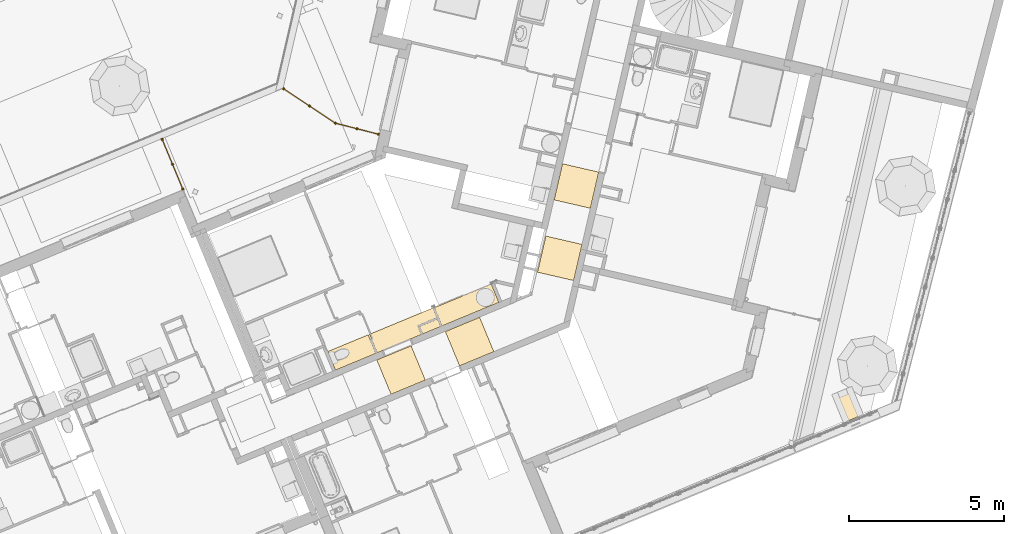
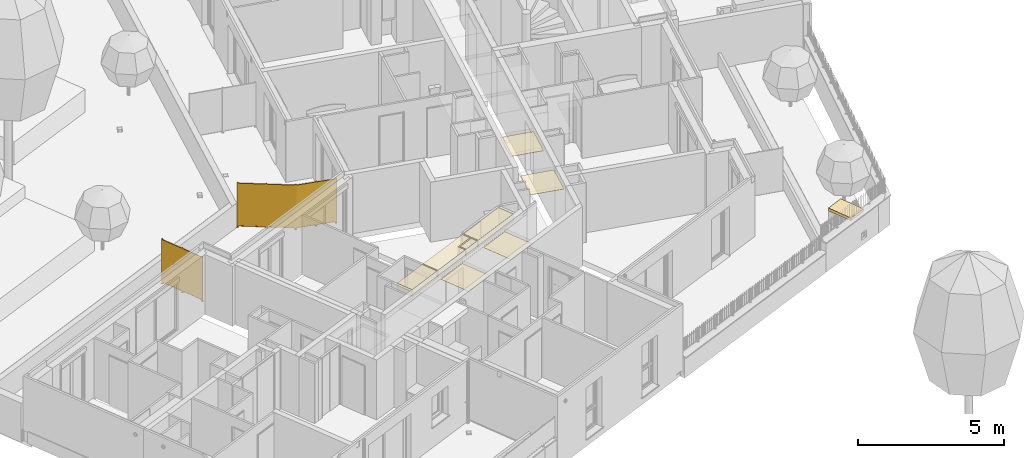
# One storey, part 70 of 119: 6 coverings, 2 railings.
"""IFC2X3 building model written with IfcOpenShell, lengths in metres."""

from ifc_helpers import new_model, entity, si_unit, converted_unit, derived_unit, money_unit, direction, frame, origin_with_axes, place, context, subcontext, project, spatial, faceted_brep, material, material_list, type_object, element, save


model = new_model("IFC2X3")

# Units and contexts
model_context = context("Model", 3, precision=1e-05, world=origin_with_axes(), true_north=direction((0.0, 1.0)))
body_context = subcontext(model_context, "Body", "Model", "MODEL_VIEW")
ifc_project = project(units=[si_unit("LENGTHUNIT", "METRE"), si_unit("AREAUNIT", "SQUARE_METRE"), si_unit("VOLUMEUNIT", "CUBIC_METRE"), converted_unit("PLANEANGLEUNIT", "DEGREE", entity("IfcPlaneAngleMeasure", 0.0174532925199), si_unit("PLANEANGLEUNIT", "RADIAN"), dimensions=[0, 0, 0, 0, 0, 0, 0]), si_unit("SOLIDANGLEUNIT", "STERADIAN"), money_unit("EUR"), converted_unit("TIMEUNIT", "Year", entity("IfcTimeMeasure", 31556926.0), si_unit("TIMEUNIT", "SECOND"), dimensions=[0, 0, 1, 0, 0, 0, 0]), si_unit("MASSUNIT", "GRAM", prefix="KILO"), si_unit("THERMODYNAMICTEMPERATUREUNIT", "DEGREE_CELSIUS"), si_unit("LUMINOUSINTENSITYUNIT", "LUMEN"), si_unit("ENERGYUNIT", "JOULE", prefix="MEGA"), derived_unit("THERMALCONDUCTANCEUNIT", [(si_unit("POWERUNIT", "WATT"), 1), (si_unit("LENGTHUNIT", "METRE"), -1), (si_unit("THERMODYNAMICTEMPERATUREUNIT", "KELVIN"), -1)]), derived_unit("SPECIFICHEATCAPACITYUNIT", [(si_unit("ENERGYUNIT", "JOULE"), 1), (si_unit("MASSUNIT", "GRAM", prefix="KILO"), -1), (si_unit("THERMODYNAMICTEMPERATUREUNIT", "KELVIN"), -1)]), derived_unit("MASSDENSITYUNIT", [(si_unit("MASSUNIT", "GRAM", prefix="KILO"), 1), (si_unit("VOLUMEUNIT", "CUBIC_METRE"), -1)])], contexts=[model_context])

# Site, building, storey
site_placement = place(None, origin_with_axes())
site = spatial("IfcSite", under=ifc_project, at=site_placement, Name="Site", CompositionType="ELEMENT")
building_placement = place(site_placement, origin_with_axes())
building = spatial("IfcBuilding", under=site, at=building_placement, Name="Bâtiment", CompositionType="ELEMENT")
storey_placement = place(building_placement, origin_with_axes())
storey = spatial("IfcBuildingStorey", under=building, at=storey_placement, Name="Rez-de-chaussée", CompositionType="ELEMENT", Elevation=0.0)

# Coverings
ifc_material_1 = material(Name="Finition int - Plaque de plâtre ACOUSTIQUE type GYPTONE")
covering_type_1 = type_object("IfcCoveringType", Name="Finition int - Plaque de plâtre ACOUSTIQUE type GYPTONE 15", PredefinedType="CEILING")
for number, where, z_axis, x_axis, name in (
    (1, (-14.5570643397, -16.7071208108, 2.272), (0.0, 0.0, 1.0), (1.0, 0.0, 0.0), "Dalle_004"),
    (2, (-14.0173614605, -14.3685911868, 2.272), (0.0, 0.0, 1.0), (1.0, 0.0, 0.0), "Dalle_004"),
):
    element("IfcCovering", number, at=place(storey_placement, frame(where, z_axis=z_axis, x_axis=x_axis)), inside=storey, type_object=covering_type_1, material=ifc_material_1, Name=name, PredefinedType="CEILING", context=body_context, shape_type="Brep", body=[
        faceted_brep([(0.0, 0.0, 0.0), (0.0, 0.0, -0.015), (1.16926481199, -0.269851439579, -0.015), (1.16926481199, -0.269851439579, 0.0), (0.269851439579, 1.16926481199, 0.0), (0.269851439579, 1.16926481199, -0.015), (1.43911625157, 0.899413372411, -0.015), (1.43911625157, 0.899413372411, 0.0)], [[[0, 1, 2, 3]], [[4, 5, 1, 0]], [[2, 1, 5, 6]], [[3, 2, 6, 7]], [[4, 0, 3, 7]], [[7, 6, 5, 4]]]),
    ])
for number, where, z_axis, x_axis, name in (
    (3, (-19.7547705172, -19.5469256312, 2.272), (0.0, 0.0, 1.0), (1.0, 0.0, 0.0), "Dalle_004"),
    (4, (-17.5378865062, -18.6274555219, 2.272), (0.0, 0.0, 1.0), (1.0, 0.0, 0.0), "Dalle_004"),
):
    element("IfcCovering", number, at=place(storey_placement, frame(where, z_axis=z_axis, x_axis=x_axis)), inside=storey, type_object=covering_type_1, material=ifc_material_1, Name=name, PredefinedType="CEILING", context=body_context, shape_type="Brep", body=[
        faceted_brep([(0.0, 0.0, 0.0), (0.0, 0.0, -0.015), (0.459735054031, -1.10844200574, -0.015), (0.459735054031, -1.10844200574, 0.0), (1.10844200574, 0.459735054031, 0.0), (1.10844200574, 0.459735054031, -0.015), (1.56817705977, -0.648706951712, -0.015), (1.56817705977, -0.648706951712, 0.0)], [[[0, 1, 2, 3]], [[4, 5, 1, 0]], [[2, 1, 5, 6]], [[3, 2, 6, 7]], [[4, 0, 3, 7]], [[7, 6, 5, 4]]]),
    ])
ifc_material_2 = material(Name="Béton")
covering_type_2 = type_object("IfcCoveringType", Name="Béton 120", PredefinedType="CEILING")
covering_1_placement = place(storey_placement, frame((-5.03951512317, -20.6666614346, 0.79), z_axis=(0.0, 0.0, 1.0), x_axis=(1.0, 0.0, 0.0)))
element("IfcCovering", 5, at=covering_1_placement, inside=storey, type_object=covering_type_2, material=ifc_material_2, Name="Dalle_025", PredefinedType="CEILING", context=body_context, shape_type="Brep", body=[
    faceted_brep([(0.0, 0.0, 0.0), (0.0, 0.0, -0.12), (0.377365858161, -0.909846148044, -0.12), (0.377365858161, -0.909846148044, 0.0), (0.646591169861, 0.268178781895, 0.0), (0.646591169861, 0.268178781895, -0.12), (1.02395702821, -0.641667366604, -0.12), (1.02395702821, -0.641667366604, 0.0)], [[[0, 1, 2, 3]], [[4, 5, 1, 0]], [[2, 1, 5, 6]], [[3, 2, 6, 7]], [[4, 0, 3, 7]], [[7, 6, 5, 4]]]),
])
ifc_material_3 = material(Name="Finition int - Plaque de plâtre")
covering_type_3 = type_object("IfcCoveringType", Name="Finition int - Plaque de plâtre 300", PredefinedType="CEILING")
covering_2_placement = place(storey_placement, frame((-21.3394909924, -19.2731644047, 2.5), z_axis=(0.0, 0.0, 1.0), x_axis=(1.0, 0.0, 0.0)))
element("IfcCovering", 6, at=covering_2_placement, inside=storey, type_object=covering_type_3, material=ifc_material_3, Name="Dalle_003", PredefinedType="CEILING", context=body_context, shape_type="Brep", body=[
    faceted_brep([(0.249023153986, -0.600406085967, -0.3), (1.55421361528, -0.0590680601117, -0.3), (1.55421361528, -0.0590680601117, 0.0), (0.249023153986, -0.600406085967, 0.0), (0.0, 0.0, -0.3), (1.30519046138, 0.541338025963, -0.3), (1.30519046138, 0.541338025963, 0.0), (0.0, 0.0, 0.0)], [[[0, 1, 2, 3]], [[4, 5, 1, 0]], [[5, 6, 2, 1]], [[3, 2, 6, 7]], [[3, 7, 4, 0]], [[7, 6, 5, 4]]]),
    faceted_brep([(1.59855129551, -0.0406786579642, -0.3), (3.02659407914, 0.551613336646, -0.3), (3.02659407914, 0.551613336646, 0.0), (1.59855129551, -0.0406786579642, 0.0), (2.90744607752, 0.838884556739, -0.3), (2.92583547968, 0.79454687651, -0.3), (1.34952814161, 0.559727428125, -0.3), (3.40014585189, 1.41023727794, -0.3), (3.53002100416, 1.09710241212, -0.3), (2.92583547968, 0.79454687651, 0.0), (2.90744607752, 0.838884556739, 0.0), (3.53002100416, 1.09710241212, 0.0), (3.40014585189, 1.41023727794, 0.0), (1.34952814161, 0.559727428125, 0.0)], [[[0, 1, 2, 3]], [[4, 5, 1, 0, 6, 7, 8]], [[5, 9, 2, 1]], [[3, 2, 9, 10, 11, 12, 13]], [[6, 0, 3, 13]], [[10, 9, 5, 4]], [[13, 12, 7, 6]], [[12, 11, 8, 7]], [[4, 8, 11, 10]]]),
    faceted_brep([(5.53265798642, 1.59102308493, -0.3), (5.28784907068, 2.1812684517, -0.3), (5.28784907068, 2.1812684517, 0.0), (5.53265798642, 1.59102308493, 0.0), (3.69350668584, 0.828220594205, -0.3), (3.44869776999, 1.41846596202, -0.3), (3.44869776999, 1.41846596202, 0.0), (3.69350668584, 0.828220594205, 0.0)], [[[0, 1, 2, 3]], [[4, 5, 1, 0]], [[5, 6, 2, 1]], [[3, 2, 6, 7]], [[3, 7, 4, 0]], [[7, 6, 5, 4]]]),
    faceted_brep([(3.5484104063, 1.05276473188, 0.0), (2.97017315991, 0.812936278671, 0.0), (3.07093175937, 0.570002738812, 0.0), (3.64916900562, 0.809831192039, 0.0), (3.5484104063, 1.05276473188, -0.3), (2.97017315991, 0.812936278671, -0.3), (3.07093175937, 0.570002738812, -0.3), (3.64916900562, 0.809831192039, -0.3)], [[[0, 1, 2, 3]], [[4, 5, 1, 0]], [[5, 6, 2, 1]], [[3, 2, 6, 7]], [[7, 4, 0, 3]], [[7, 6, 5, 4]]]),
])

# Railings
ifc_material_4 = material(Name="Métal - Acier")
ifc_material_5 = material(Name="Métal - Acier inoxidable")
ifc_material_6 = material(Name="Vitrage")
ifc_material_list_1 = material_list([ifc_material_4, ifc_material_4, ifc_material_4, ifc_material_5, ifc_material_6, ifc_material_4, ifc_material_5, ifc_material_6, ifc_material_5, ifc_material_6, ifc_material_4, ifc_material_5, ifc_material_6])
railing_type = type_object("IfcRailingType", Name="Type de garde-corps", PredefinedType="NOTDEFINED")
railing_1_placement = place(storey_placement, frame((-22.767149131, -10.7764624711, 0.2), z_axis=(0.0, 0.0, 1.0), x_axis=(1.0, 0.0, 0.0)))
element("IfcRailing", 7, at=railing_1_placement, inside=storey, type_object=railing_type, material=ifc_material_list_1, Name="Pare-vue acier laqué+verre dépoli H=190", PredefinedType="NOTDEFINED", context=body_context, shape_type="Brep", body=[
    faceted_brep([(0.020792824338, 0.00420219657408, 0.01), (0.00420219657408, -0.020792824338, 0.01), (0.00420219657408, -0.020792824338, 1.88), (0.020792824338, 0.00420219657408, 1.88), (0.0277237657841, 0.00560292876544, 0.01), (0.00560292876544, -0.0277237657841, 0.01), (-0.0277237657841, -0.00560292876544, 0.01), (-0.00560292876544, 0.0277237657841, 0.01), (-0.020792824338, -0.00420219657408, 0.01), (-0.00420219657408, 0.020792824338, 0.01), (-0.020792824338, -0.00420219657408, 1.88), (-0.0277237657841, -0.00560292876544, 1.88), (0.00560292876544, -0.0277237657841, 1.88), (0.0277237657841, 0.00560292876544, 1.88), (-0.00560292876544, 0.0277237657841, 1.88), (-0.00420219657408, 0.020792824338, 1.88)], [[[0, 1, 2, 3]], [[4, 5, 6, 7], [8, 1, 0, 9]], [[1, 8, 10, 2]], [[11, 12, 13, 14], [3, 2, 10, 15]], [[9, 0, 3, 15]], [[5, 4, 13, 12]], [[6, 5, 12, 11]], [[7, 6, 11, 14]], [[4, 7, 14, 13]], [[8, 9, 15, 10]]]),
    faceted_brep([(-0.0112058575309, 0.0554475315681, 0.0), (-0.0112058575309, 0.0554475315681, 0.01), (0.0554475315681, 0.0112058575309, 0.01), (0.0554475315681, 0.0112058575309, 0.0), (-0.0554475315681, -0.0112058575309, 0.0), (-0.0554475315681, -0.0112058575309, 0.01), (0.0112058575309, -0.0554475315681, 0.01), (0.0112058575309, -0.0554475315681, 0.0)], [[[0, 1, 2, 3]], [[4, 5, 1, 0]], [[1, 5, 6, 2]], [[3, 2, 6, 7]], [[0, 3, 7, 4]], [[7, 6, 5, 4]]]),
    faceted_brep([(1.69408727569, -1.10645922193, 0.01), (1.67749664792, -1.13145424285, 0.01), (1.67749664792, -1.13145424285, 1.88), (1.69408727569, -1.10645922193, 1.88), (1.70101821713, -1.10505848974, 0.01), (1.67889738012, -1.13838518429, 0.01), (1.64557068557, -1.11626434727, 0.01), (1.66769152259, -1.08293765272, 0.01), (1.65250162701, -1.11486361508, 0.01), (1.66909225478, -1.08986859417, 0.01), (1.65250162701, -1.11486361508, 1.88), (1.64557068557, -1.11626434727, 1.88), (1.67889738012, -1.13838518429, 1.88), (1.70101821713, -1.10505848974, 1.88), (1.66769152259, -1.08293765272, 1.88), (1.66909225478, -1.08986859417, 1.88)], [[[0, 1, 2, 3]], [[4, 5, 6, 7], [8, 1, 0, 9]], [[1, 8, 10, 2]], [[11, 12, 13, 14], [3, 2, 10, 15]], [[9, 0, 3, 15]], [[5, 4, 13, 12]], [[6, 5, 12, 11]], [[7, 6, 11, 14]], [[4, 7, 14, 13]], [[8, 9, 15, 10]]]),
    faceted_brep([(1.66208859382, -1.05521388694, 0.0), (1.66208859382, -1.05521388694, 0.01), (1.72874198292, -1.09945556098, 0.01), (1.72874198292, -1.09945556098, 0.0), (1.61784691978, -1.12186727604, 0.0), (1.61784691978, -1.12186727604, 0.01), (1.68450030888, -1.16610895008, 0.01), (1.68450030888, -1.16610895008, 0.0)], [[[0, 1, 2, 3]], [[4, 5, 1, 0]], [[1, 5, 6, 2]], [[3, 2, 6, 7]], [[0, 3, 7, 4]], [[7, 6, 5, 4]]]),
    faceted_brep([(3.08468892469, -1.45746463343, 0.01), (3.07723006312, -1.48652259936, 0.01), (3.07723006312, -1.48652259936, 1.88), (3.08468892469, -1.45746463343, 1.88), (3.09077506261, -1.4538647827, 0.01), (3.08082991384, -1.49260873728, 0.01), (3.04208595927, -1.48266358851, 0.01), (3.05203110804, -1.44391963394, 0.01), (3.04817209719, -1.47906373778, 0.01), (3.05563095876, -1.45000577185, 0.01), (3.04817209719, -1.47906373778, 1.88), (3.04208595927, -1.48266358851, 1.88), (3.08082991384, -1.49260873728, 1.88), (3.09077506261, -1.4538647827, 1.88), (3.05203110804, -1.44391963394, 1.88), (3.05563095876, -1.45000577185, 1.88)], [[[0, 1, 2, 3]], [[4, 5, 6, 7], [8, 1, 0, 9]], [[1, 8, 10, 2]], [[11, 12, 13, 14], [3, 2, 10, 15]], [[9, 0, 3, 15]], [[5, 4, 13, 12]], [[6, 5, 12, 11]], [[7, 6, 11, 14]], [[4, 7, 14, 13]], [[8, 9, 15, 10]]]),
    faceted_brep([(3.03763170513, -1.41957508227, 0.0), (3.03763170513, -1.41957508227, 0.01), (3.11511961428, -1.4394653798, 0.01), (3.11511961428, -1.4394653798, 0.0), (3.0177414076, -1.49706299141, 0.0), (3.0177414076, -1.49706299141, 0.01), (3.09522931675, -1.51695328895, 0.01), (3.09522931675, -1.51695328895, 0.0)], [[[0, 1, 2, 3]], [[4, 5, 1, 0]], [[1, 5, 6, 2]], [[3, 2, 6, 7]], [[0, 3, 7, 4]], [[7, 6, 5, 4]]]),
    faceted_brep([(0.844942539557, -0.542833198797, 0.05), (0.00829531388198, 0.0124975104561, 0.05), (0.00829531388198, 0.0124975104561, 1.85), (0.844942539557, -0.542833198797, 1.85), (0.0249586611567, 0.00143709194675, 1.83), (0.0249586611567, 0.00143709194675, 0.07), (0.828279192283, -0.531772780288, 0.07), (0.828279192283, -0.531772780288, 1.83), (-0.00829531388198, -0.0124975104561, 0.05), (0.828351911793, -0.56782821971, 0.05), (-0.00829531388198, -0.0124975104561, 1.85), (0.828351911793, -0.56782821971, 1.85), (0.00836803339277, -0.0235579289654, 0.07), (0.00836803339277, -0.0235579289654, 1.83), (0.811688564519, -0.5567678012, 0.07), (0.811688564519, -0.5567678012, 1.83)], [[[0, 1, 2, 3], [4, 5, 6, 7]], [[8, 1, 0, 9]], [[10, 2, 1, 8]], [[3, 2, 10, 11]], [[0, 3, 11, 9]], [[12, 5, 4, 13]], [[14, 6, 5, 12]], [[7, 6, 14, 15]], [[4, 7, 15, 13]], [[10, 8, 9, 11], [14, 12, 13, 15]]]),
    faceted_brep([(0.825514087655, -0.535938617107, 0.07), (0.0221935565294, -0.00272874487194, 0.07), (0.0221935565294, -0.00272874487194, 1.83), (0.825514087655, -0.535938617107, 1.83), (0.0111331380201, -0.0193920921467, 0.07), (0.814453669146, -0.552601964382, 0.07), (0.0111331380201, -0.0193920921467, 1.83), (0.814453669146, -0.552601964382, 1.83)], [[[0, 1, 2, 3]], [[4, 1, 0, 5]], [[6, 2, 1, 4]], [[3, 2, 6, 7]], [[0, 3, 7, 5]], [[6, 4, 5, 7]]]),
    faceted_brep([(0.857440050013, -0.551128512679, 0.01), (0.84084942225, -0.576123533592, 0.01), (0.84084942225, -0.576123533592, 1.88), (0.857440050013, -0.551128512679, 1.88), (0.864370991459, -0.549727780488, 0.01), (0.842250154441, -0.583054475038, 0.01), (0.808923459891, -0.560933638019, 0.01), (0.83104429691, -0.527606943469, 0.01), (0.815854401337, -0.559532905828, 0.01), (0.832445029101, -0.534537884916, 0.01), (0.815854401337, -0.559532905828, 1.88), (0.808923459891, -0.560933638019, 1.88), (0.842250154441, -0.583054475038, 1.88), (0.864370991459, -0.549727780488, 1.88), (0.83104429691, -0.527606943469, 1.88), (0.832445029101, -0.534537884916, 1.88)], [[[0, 1, 2, 3]], [[4, 5, 6, 7], [8, 1, 0, 9]], [[1, 8, 10, 2]], [[11, 12, 13, 14], [3, 2, 10, 15]], [[9, 0, 3, 15]], [[5, 4, 13, 12]], [[6, 5, 12, 11]], [[7, 6, 11, 14]], [[4, 7, 14, 13]], [[8, 9, 15, 10]]]),
    faceted_brep([(0.825441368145, -0.499883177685, 0.0), (0.825441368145, -0.499883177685, 0.01), (0.892094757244, -0.544124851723, 0.01), (0.892094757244, -0.544124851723, 0.0), (0.781199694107, -0.566536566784, 0.0), (0.781199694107, -0.566536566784, 0.01), (0.847853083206, -0.610778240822, 0.01), (0.847853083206, -0.610778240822, 0.0)], [[[0, 1, 2, 3]], [[4, 5, 1, 0]], [[1, 5, 6, 2]], [[3, 2, 6, 7]], [[0, 3, 7, 4]], [[7, 6, 5, 4]]]),
    faceted_brep([(0.844942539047, -0.542833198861, 0.0499999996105), (0.844942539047, -0.542833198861, 1.85000000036), (1.67947842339, -1.09676248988, 1.85000000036), (1.67947842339, -1.09676248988, 0.0499999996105), (0.861605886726, -0.553893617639, 0.0700000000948), (1.66281507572, -1.0857020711, 0.0700000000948), (1.66281507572, -1.0857020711, 1.82999999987), (0.861605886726, -0.553893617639, 1.82999999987), (0.828351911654, -0.567828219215, 1.85000000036), (0.828351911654, -0.567828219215, 0.0499999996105), (1.66711047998, -1.12456034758, 1.85000000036), (1.66711047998, -1.12456034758, 0.0499999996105), (1.65044713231, -1.1134999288, 0.0700000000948), (0.845015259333, -0.578888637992, 0.0700000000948), (1.65044713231, -1.1134999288, 1.82999999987), (0.845015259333, -0.578888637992, 1.82999999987)], [[[0, 1, 2, 3], [4, 5, 6, 7]], [[8, 1, 0, 9]], [[2, 1, 8, 10]], [[3, 2, 10, 11]], [[9, 0, 3, 11]], [[12, 5, 4, 13]], [[6, 5, 12, 14]], [[7, 6, 14, 15]], [[13, 4, 7, 15]], [[10, 8, 9, 11], [14, 12, 13, 15]]]),
    faceted_brep([(0.858840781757, -0.558059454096, 0.0699999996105), (0.858840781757, -0.558059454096, 1.83000000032), (1.66075375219, -1.09033504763, 1.83000000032), (1.66075375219, -1.09033504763, 0.0699999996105), (0.847780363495, -0.574722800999, 1.83000000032), (0.847780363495, -0.574722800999, 0.0699999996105), (1.65250845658, -1.10886695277, 1.83000000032), (1.65250845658, -1.10886695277, 0.0699999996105)], [[[0, 1, 2, 3]], [[4, 1, 0, 5]], [[2, 1, 4, 6]], [[3, 2, 6, 7]], [[5, 0, 3, 7]], [[6, 4, 5, 7]]]),
    faceted_brep([(1.67947842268, -1.09676248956, 0.0499999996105), (1.67947842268, -1.09676248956, 1.85000000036), (2.37359191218, -1.2749338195, 1.85000000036), (2.37359191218, -1.2749338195, 0.0499999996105), (1.69885040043, -1.10173506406, 0.0700000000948), (2.35421993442, -1.269961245, 0.0700000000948), (2.35421993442, -1.269961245, 1.82999999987), (1.69885040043, -1.10173506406, 1.82999999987), (1.66711047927, -1.12456034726, 1.85000000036), (1.66711047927, -1.12456034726, 0.0499999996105), (2.36613305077, -1.30399178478, 1.85000000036), (2.36613305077, -1.30399178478, 0.0499999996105), (2.34676107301, -1.29901921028, 0.0700000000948), (1.68648245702, -1.12953292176, 0.0700000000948), (2.34676107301, -1.29901921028, 1.82999999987), (1.68648245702, -1.12953292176, 1.82999999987)], [[[0, 1, 2, 3], [4, 5, 6, 7]], [[8, 1, 0, 9]], [[2, 1, 8, 10]], [[3, 2, 10, 11]], [[9, 0, 3, 11]], [[12, 5, 4, 13]], [[6, 5, 12, 14]], [[7, 6, 14, 15]], [[13, 4, 7, 15]], [[10, 8, 9, 11], [14, 12, 13, 15]]]),
    faceted_brep([(1.69678907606, -1.10636804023, 0.0699999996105), (1.69678907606, -1.10636804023, 1.83000000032), (2.35297679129, -1.27480423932, 1.83000000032), (2.35297679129, -1.27480423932, 0.0699999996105), (1.68854378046, -1.12489994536, 1.83000000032), (1.68854378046, -1.12489994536, 0.0699999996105), (2.34800421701, -1.29417621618, 1.83000000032), (2.34800421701, -1.29417621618, 0.0699999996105)], [[[0, 1, 2, 3]], [[4, 1, 0, 5]], [[2, 1, 4, 6]], [[3, 2, 6, 7]], [[5, 0, 3, 7]], [[6, 4, 5, 7]]]),
    faceted_brep([(2.3881208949, -1.27866324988, 0.01), (2.38066203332, -1.30772121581, 0.01), (2.38066203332, -1.30772121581, 1.88), (2.3881208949, -1.27866324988, 1.88), (2.39420703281, -1.27506339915, 0.01), (2.38426188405, -1.31380735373, 0.01), (2.34551792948, -1.30386220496, 0.01), (2.35546307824, -1.26511825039, 0.01), (2.35160406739, -1.30026235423, 0.01), (2.35906292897, -1.2712043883, 0.01), (2.35160406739, -1.30026235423, 1.88), (2.34551792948, -1.30386220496, 1.88), (2.38426188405, -1.31380735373, 1.88), (2.39420703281, -1.27506339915, 1.88), (2.35546307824, -1.26511825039, 1.88), (2.35906292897, -1.2712043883, 1.88)], [[[0, 1, 2, 3]], [[4, 5, 6, 7], [8, 1, 0, 9]], [[1, 8, 10, 2]], [[11, 12, 13, 14], [3, 2, 10, 15]], [[9, 0, 3, 15]], [[5, 4, 13, 12]], [[6, 5, 12, 11]], [[7, 6, 11, 14]], [[4, 7, 14, 13]], [[8, 9, 15, 10]]]),
    faceted_brep([(2.34106367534, -1.24077369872, 0.0), (2.34106367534, -1.24077369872, 0.01), (2.41855158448, -1.26066399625, 0.01), (2.41855158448, -1.26066399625, 0.0), (2.32117337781, -1.31826160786, 0.0), (2.32117337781, -1.31826160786, 0.01), (2.39866128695, -1.3381519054, 0.01), (2.39866128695, -1.3381519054, 0.0)], [[[0, 1, 2, 3]], [[4, 5, 1, 0]], [[1, 5, 6, 2]], [[3, 2, 6, 7]], [[0, 3, 7, 4]], [[7, 6, 5, 4]]]),
    faceted_brep([(3.07015994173, -1.45373520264, 0.05), (2.37359191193, -1.27493381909, 0.05), (2.37359191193, -1.27493381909, 1.85), (3.07015994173, -1.45373520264, 1.85), (2.39296388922, -1.27990639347, 1.83), (2.39296388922, -1.27990639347, 0.07), (3.05078796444, -1.44876262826, 0.07), (3.05078796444, -1.44876262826, 1.83), (2.36613305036, -1.30399178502, 0.05), (3.06270108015, -1.48279316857, 0.05), (2.36613305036, -1.30399178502, 1.85), (3.06270108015, -1.48279316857, 1.85), (2.38550502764, -1.3089643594, 0.07), (2.38550502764, -1.3089643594, 1.83), (3.04332910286, -1.47782059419, 0.07), (3.04332910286, -1.47782059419, 1.83)], [[[0, 1, 2, 3], [4, 5, 6, 7]], [[8, 1, 0, 9]], [[10, 2, 1, 8]], [[3, 2, 10, 11]], [[0, 3, 11, 9]], [[12, 5, 4, 13]], [[14, 6, 5, 12]], [[7, 6, 14, 15]], [[4, 7, 15, 13]], [[10, 8, 9, 11], [14, 12, 13, 15]]]),
    faceted_brep([(3.04954482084, -1.45360562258, 0.07), (2.39172074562, -1.2847493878, 0.07), (2.39172074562, -1.2847493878, 1.83), (3.04954482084, -1.45360562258, 1.83), (2.38674817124, -1.30412136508, 0.07), (3.04457224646, -1.47297759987, 0.07), (2.38674817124, -1.30412136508, 1.83), (3.04457224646, -1.47297759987, 1.83)], [[[0, 1, 2, 3]], [[4, 1, 0, 5]], [[6, 2, 1, 4]], [[3, 2, 6, 7]], [[0, 3, 7, 5]], [[6, 4, 5, 7]]]),
])
ifc_material_list_2 = material_list([ifc_material_4, ifc_material_4, ifc_material_5, ifc_material_6, ifc_material_4, ifc_material_5, ifc_material_6])
railing_2_placement = place(storey_placement, frame((-26.6735238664, -12.4656215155, 0.2), z_axis=(0.0, 0.0, 1.0), x_axis=(1.0, 0.0, 0.0)))
element("IfcRailing", 8, at=railing_2_placement, inside=storey, type_object=railing_type, material=ifc_material_list_2, Name="Pare-vue acier laqué+verre dépoli H=190", PredefinedType="NOTDEFINED", context=body_context, shape_type="Brep", body=[
    faceted_brep([(-0.00298798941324, 0.0463571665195, 0.01), (-0.0306990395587, 0.0348637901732, 0.01), (-0.0306990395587, 0.0348637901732, 1.88), (-0.00298798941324, 0.0463571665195, 1.88), (0.00354608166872, 0.0436542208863, 0.01), (-0.0334019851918, 0.0283297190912, 0.01), (-0.0487264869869, 0.0652777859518, 0.01), (-0.0117784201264, 0.0806022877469, 0.01), (-0.042192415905, 0.0625748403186, 0.01), (-0.0144813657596, 0.0740682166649, 0.01), (-0.042192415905, 0.0625748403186, 1.88), (-0.0487264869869, 0.0652777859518, 1.88), (-0.0334019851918, 0.0283297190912, 1.88), (0.00354608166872, 0.0436542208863, 1.88), (-0.0117784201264, 0.0806022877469, 1.88), (-0.0144813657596, 0.0740682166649, 1.88)], [[[0, 1, 2, 3]], [[4, 5, 6, 7], [8, 1, 0, 9]], [[1, 8, 10, 2]], [[11, 12, 13, 14], [3, 2, 10, 15]], [[9, 0, 3, 15]], [[5, 4, 13, 12]], [[6, 5, 12, 11]], [[7, 6, 11, 14]], [[4, 7, 14, 13]], [[8, 9, 15, 10]]]),
    faceted_brep([(-0.000966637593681, 0.106738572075, 0.0), (-0.000966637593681, 0.106738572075, 0.01), (0.0296823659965, 0.0328424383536, 0.01), (0.0296823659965, 0.0328424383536, 0.0), (-0.0748627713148, 0.0760895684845, 0.0), (-0.0748627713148, 0.0760895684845, 0.01), (-0.0442137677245, 0.00219343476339, 0.01), (-0.0442137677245, 0.00219343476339, 0.0)], [[[0, 1, 2, 3]], [[4, 5, 1, 0]], [[1, 5, 6, 2]], [[3, 2, 6, 7]], [[0, 3, 7, 4]], [[7, 6, 5, 4]]]),
    faceted_brep([(0.663663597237, -1.56096995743, 0.01), (0.635952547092, -1.57246333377, 0.01), (0.635952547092, -1.57246333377, 1.88), (0.663663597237, -1.56096995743, 1.88), (0.670197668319, -1.56367290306, 0.01), (0.633249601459, -1.57899740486, 0.01), (0.617925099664, -1.54204933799, 0.01), (0.654873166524, -1.5267248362, 0.01), (0.624459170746, -1.54475228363, 0.01), (0.652170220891, -1.53325890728, 0.01), (0.624459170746, -1.54475228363, 1.88), (0.617925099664, -1.54204933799, 1.88), (0.633249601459, -1.57899740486, 1.88), (0.670197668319, -1.56367290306, 1.88), (0.654873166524, -1.5267248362, 1.88), (0.652170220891, -1.53325890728, 1.88)], [[[0, 1, 2, 3]], [[4, 5, 6, 7], [8, 1, 0, 9]], [[1, 8, 10, 2]], [[11, 12, 13, 14], [3, 2, 10, 15]], [[9, 0, 3, 15]], [[5, 4, 13, 12]], [[6, 5, 12, 11]], [[7, 6, 11, 14]], [[4, 7, 14, 13]], [[8, 9, 15, 10]]]),
    faceted_brep([(0.665684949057, -1.50058855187, 0.0), (0.665684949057, -1.50058855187, 0.01), (0.696333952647, -1.57448468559, 0.01), (0.696333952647, -1.57448468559, 0.0), (0.591788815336, -1.53123755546, 0.0), (0.591788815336, -1.53123755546, 0.01), (0.622437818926, -1.60513368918, 0.01), (0.622437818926, -1.60513368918, 0.0)], [[[0, 1, 2, 3]], [[4, 5, 1, 0]], [[1, 5, 6, 2]], [[3, 2, 6, 7]], [[0, 3, 7, 4]], [[7, 6, 5, 4]]]),
    faceted_brep([(0.324591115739, -0.743450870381, 0.05), (-0.00873467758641, 0.0602126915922, 0.05), (-0.00873467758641, 0.0602126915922, 1.85), (0.324591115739, -0.743450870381, 1.85), (-0.00107242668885, 0.0417386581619, 1.83), (-0.00107242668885, 0.0417386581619, 0.07), (0.316928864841, -0.724976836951, 0.07), (0.316928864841, -0.724976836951, 1.83), (-0.0364457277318, 0.0487193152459, 0.05), (0.296880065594, -0.754944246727, 0.05), (-0.0364457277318, 0.0487193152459, 1.85), (0.296880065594, -0.754944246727, 1.85), (-0.0287834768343, 0.0302452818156, 0.07), (-0.0287834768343, 0.0302452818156, 1.83), (0.289217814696, -0.736470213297, 0.07), (0.289217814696, -0.736470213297, 1.83)], [[[0, 1, 2, 3], [4, 5, 6, 7]], [[8, 1, 0, 9]], [[10, 2, 1, 8]], [[3, 2, 10, 11]], [[0, 3, 11, 9]], [[12, 5, 4, 13]], [[14, 6, 5, 12]], [[7, 6, 14, 15]], [[4, 7, 15, 13]], [[10, 8, 9, 11], [14, 12, 13, 15]]]),
    faceted_brep([(0.312310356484, -0.726892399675, 0.07), (-0.00569093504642, 0.0398230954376, 0.07), (-0.00569093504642, 0.0398230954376, 1.83), (0.312310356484, -0.726892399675, 1.83), (-0.0241649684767, 0.03216084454, 0.07), (0.293836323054, -0.734554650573, 0.07), (-0.0241649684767, 0.03216084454, 1.83), (0.293836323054, -0.734554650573, 1.83)], [[[0, 1, 2, 3]], [[4, 1, 0, 5]], [[6, 2, 1, 4]], [[3, 2, 6, 7]], [[0, 3, 7, 5]], [[6, 4, 5, 7]]]),
    faceted_brep([(0.330337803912, -0.757306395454, 0.01), (0.302626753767, -0.7687997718, 0.01), (0.302626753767, -0.7687997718, 1.88), (0.330337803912, -0.757306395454, 1.88), (0.336871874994, -0.760009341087, 0.01), (0.299923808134, -0.775333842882, 0.01), (0.284599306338, -0.738385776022, 0.01), (0.321547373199, -0.723061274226, 0.01), (0.29113337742, -0.741088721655, 0.01), (0.318844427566, -0.729595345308, 0.01), (0.29113337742, -0.741088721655, 1.88), (0.284599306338, -0.738385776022, 1.88), (0.299923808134, -0.775333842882, 1.88), (0.336871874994, -0.760009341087, 1.88), (0.321547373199, -0.723061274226, 1.88), (0.318844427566, -0.729595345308, 1.88)], [[[0, 1, 2, 3]], [[4, 5, 6, 7], [8, 1, 0, 9]], [[1, 8, 10, 2]], [[11, 12, 13, 14], [3, 2, 10, 15]], [[9, 0, 3, 15]], [[5, 4, 13, 12]], [[6, 5, 12, 11]], [[7, 6, 11, 14]], [[4, 7, 14, 13]], [[8, 9, 15, 10]]]),
    faceted_brep([(0.332359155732, -0.696924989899, 0.0), (0.332359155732, -0.696924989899, 0.01), (0.363008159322, -0.77082112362, 0.01), (0.363008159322, -0.77082112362, 0.0), (0.258463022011, -0.727573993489, 0.0), (0.258463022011, -0.727573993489, 0.01), (0.289112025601, -0.80147012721, 0.01), (0.289112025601, -0.80147012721, 0.0)], [[[0, 1, 2, 3]], [[4, 5, 1, 0]], [[1, 5, 6, 2]], [[3, 2, 6, 7]], [[0, 3, 7, 4]], [[7, 6, 5, 4]]]),
    faceted_brep([(0.657916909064, -1.54711443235, 0.05), (0.324591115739, -0.743450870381, 0.05), (0.324591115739, -0.743450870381, 1.85), (0.657916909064, -1.54711443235, 1.85), (0.332253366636, -0.761924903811, 1.83), (0.332253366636, -0.761924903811, 0.07), (0.650254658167, -1.52864039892, 0.07), (0.650254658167, -1.52864039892, 1.83), (0.296880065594, -0.754944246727, 0.05), (0.630205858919, -1.5586078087, 0.05), (0.296880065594, -0.754944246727, 1.85), (0.630205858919, -1.5586078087, 1.85), (0.304542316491, -0.773418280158, 0.07), (0.304542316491, -0.773418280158, 1.83), (0.622543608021, -1.54013377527, 0.07), (0.622543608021, -1.54013377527, 1.83)], [[[0, 1, 2, 3], [4, 5, 6, 7]], [[8, 1, 0, 9]], [[10, 2, 1, 8]], [[3, 2, 10, 11]], [[0, 3, 11, 9]], [[12, 5, 4, 13]], [[14, 6, 5, 12]], [[7, 6, 14, 15]], [[4, 7, 15, 13]], [[10, 8, 9, 11], [14, 12, 13, 15]]]),
    faceted_brep([(0.645636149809, -1.53055596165, 0.07), (0.327634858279, -0.763840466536, 0.07), (0.327634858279, -0.763840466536, 1.83), (0.645636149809, -1.53055596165, 1.83), (0.309160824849, -0.771502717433, 0.07), (0.627162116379, -1.53821821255, 0.07), (0.309160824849, -0.771502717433, 1.83), (0.627162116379, -1.53821821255, 1.83)], [[[0, 1, 2, 3]], [[4, 1, 0, 5]], [[6, 2, 1, 4]], [[3, 2, 6, 7]], [[0, 3, 7, 5]], [[6, 4, 5, 7]]]),
])

save(model, "model.ifc")
